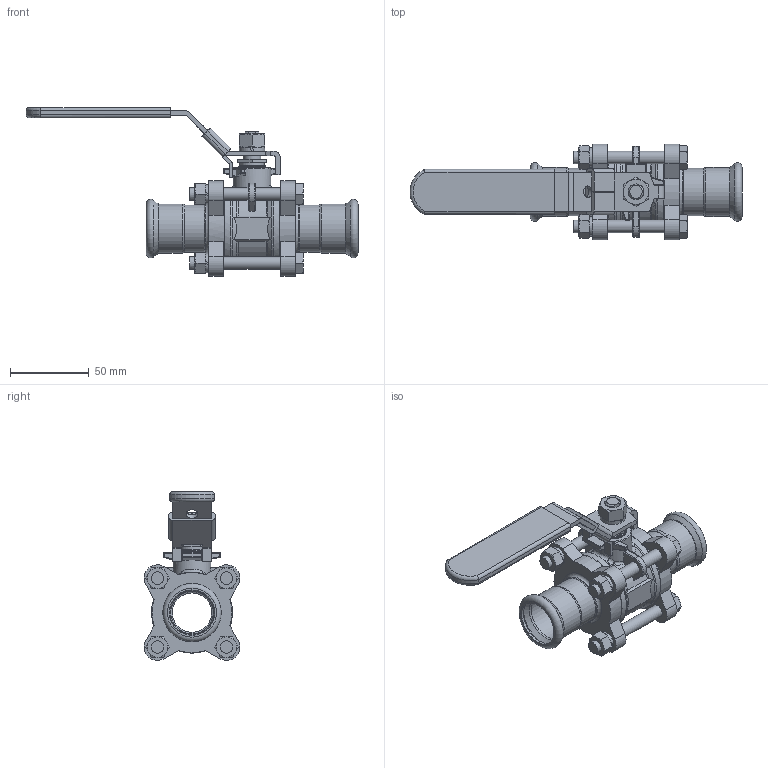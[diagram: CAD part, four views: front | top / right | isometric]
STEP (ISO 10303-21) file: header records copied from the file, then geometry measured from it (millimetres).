
FILE_DESCRIPTION(('STEP AP214'),'1');
FILE_NAME(' 1.stp','2024-05-13T03:12:55',(' '),(' '),'Spatial InterOp 3D',' ',' ');
FILE_SCHEMA(('AUTOMOTIVE_DESIGN { 1 0 10303 214 1 1 1 1 }'));
Length unit declared in the file: millimetre
Products named in the file (25): 3PC卡压球阀1“; 球体; 3PC对焊球阀 11/4; 手柄套; 手柄; 锁扣; 格兰; 弹簧垫圈; 螺母 ： 标准 - M10.0 x 8.4; 阀杆; 阀盖1; 阀体; 螺母 ： 标准 - M8.0 x 6.8; 螺栓 ： 六角头 - M8.0 x 67.0
Assembly tree (24 placements, depth 3):
  3PC卡压球阀1“
    球体
    3PC对焊球阀 11/4
      手柄套
      手柄
      锁扣
    格兰
    弹簧垫圈
    螺母 ： 标准 - M10.0 x 8.4
    阀杆
    阀盖1
    阀体
    螺母 ： 标准 - M8.0 x 6.8
    弹簧垫圈
    螺栓 ： 六角头 - M8.0 x 67.0
    螺母 ： 标准 - M8.0 x 6.8
    弹簧垫圈
    螺栓 ： 六角头 - M8.0 x 67.0
    螺母 ： 标准 - M8.0 x 6.8
    弹簧垫圈
    螺栓 ： 六角头 - M8.0 x 67.0
    螺母 ： 标准 - M8.0 x 6.8
    弹簧垫圈
    螺栓 ： 六角头 - M8.0 x 67.0
    阀盖1
Bounding box: 211.16 x 60.84 x 107.42 mm (x, y, z)
Volume: 147924.9 mm3; surface area: 95497.9 mm2
Topology: 23 solids, 23 shells, 723 faces, 1776 edges, 1101 vertices
Faces by surface type: plane 246, cylinder 183, bspline 123, cone 107, torus 41, sphere 23
Full cylindrical faces by diameter (mm): 7.5 x1, 8 x8, 8.1 x4, 8.3 x10, 10 x1, 10.9 x1, 11.5 x1, 12 x2, 12.3 x4, 15 x1, 15.5 x1, 15.951 x6, 16 x1, 16.1 x1, 24 x1, 25 x3, 27 x2, 28.2 x2, 28.9 x2, 30 x2, 31 x2, 31.2 x2, 40.5 x1, 41 x2, 44.6 x2, 51 x2, 51.5 x2
Entity records: 101468 total; most frequent: CARTESIAN_POINT 80128, ORIENTED_EDGE 3272, DIRECTION 2769, EDGE_CURVE 1636, AXIS2_PLACEMENT_3D 1083, VERTEX_POINT 1073, EDGE_LOOP 871, FACE_OUTER_BOUND 790
